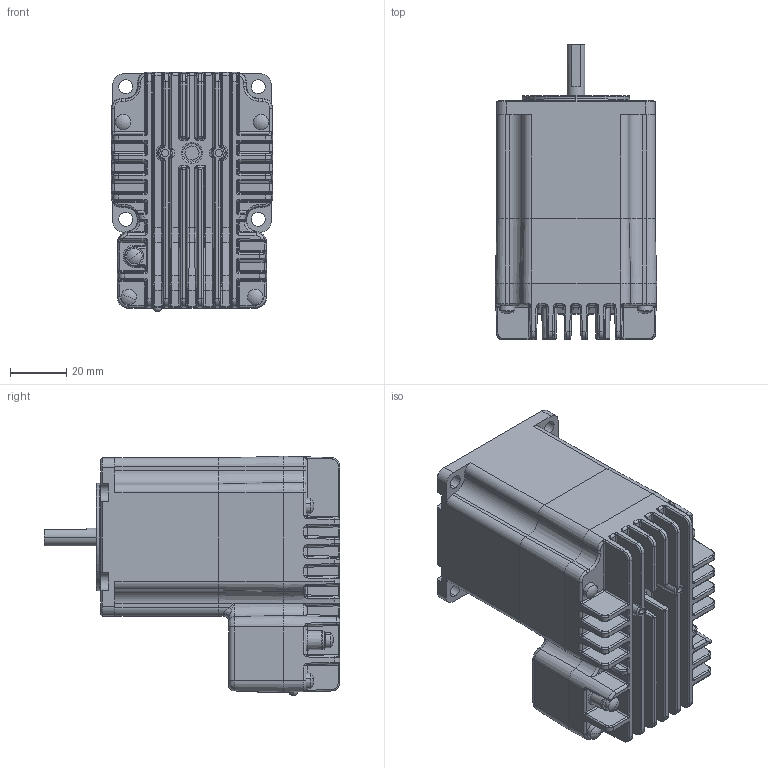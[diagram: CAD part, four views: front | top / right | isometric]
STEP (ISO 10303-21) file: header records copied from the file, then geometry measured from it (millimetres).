
FILE_DESCRIPTION((''),'2;1');
FILE_NAME('CU_ISM-7401','2013-09-26T',('jbuhisan'),(''),'PRO/ENGINEER BY PARAMETRIC TECHNOLOGY CORPORATION, 2011490','PRO/ENGINEER BY PARAMETRIC TECHNOLOGY CORPORATION, 2011490','');
FILE_SCHEMA(('CONFIG_CONTROL_DESIGN'));
Products named in the file (1): CU_ISM-7401
Bounding box: 57.4 x 105 x 85.14 mm (x, y, z)
Volume: 134451.4 mm3; surface area: 97061.7 mm2
Topology: 3 solids, 4 shells, 3495 faces, 9539 edges, 5931 vertices
Faces by surface type: plane 1817, cylinder 1074, bspline 309, torus 139, cone 91, sphere 65
Entity records: 137181 total; most frequent: CARTESIAN_POINT 50191, ORIENTED_EDGE 18860, DIRECTION 17320, EDGE_CURVE 9430, VECTOR 6070, LINE 6070, VERTEX_POINT 5931, AXIS2_PLACEMENT_3D 5625
